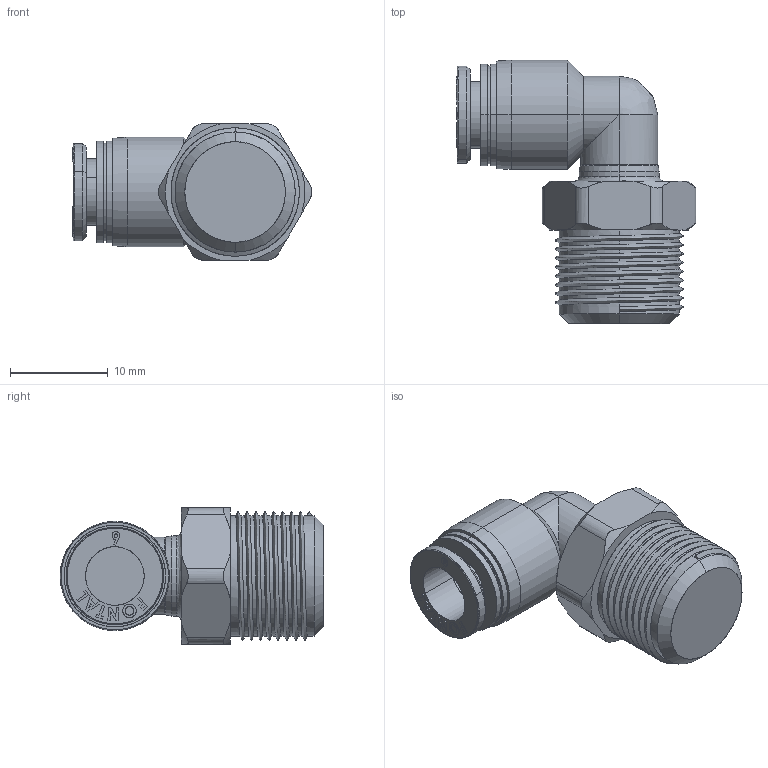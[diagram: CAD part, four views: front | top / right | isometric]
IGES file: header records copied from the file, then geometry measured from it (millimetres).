
Start section: SolidWorks IGES file using analytic representation for surfaces
Global section: file name: D:\Custom\3D繪製\ADDITIONAL\FPL\FPL6-02.IGS,1; native system: 5HSolidWorks 2014; preprocessor: SolidWorks 2014; author: Chieh_Lu; date: 160115.050506; units: millimetre
Bounding box: 24.53 x 27 x 14 mm (x, y, z)
Surface area: 2329.6 mm2 (no closed solid volume)
Topology: 0 solids, 0 shells, 177 faces, 2217 edges, 2217 vertices
Faces by surface type: bspline 104, revolution 73
